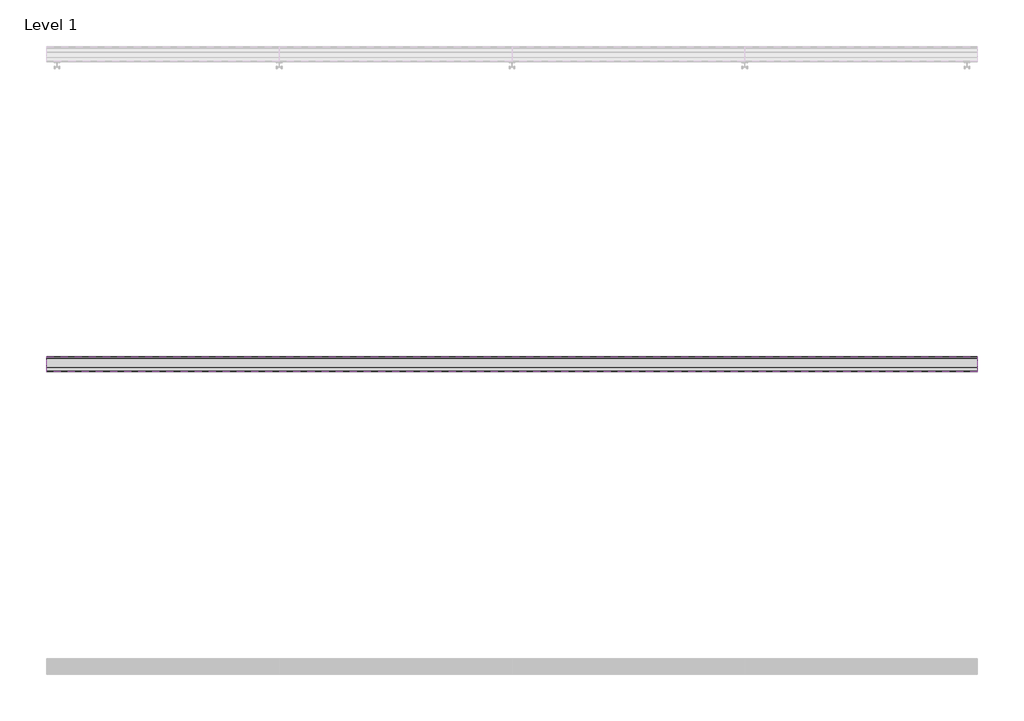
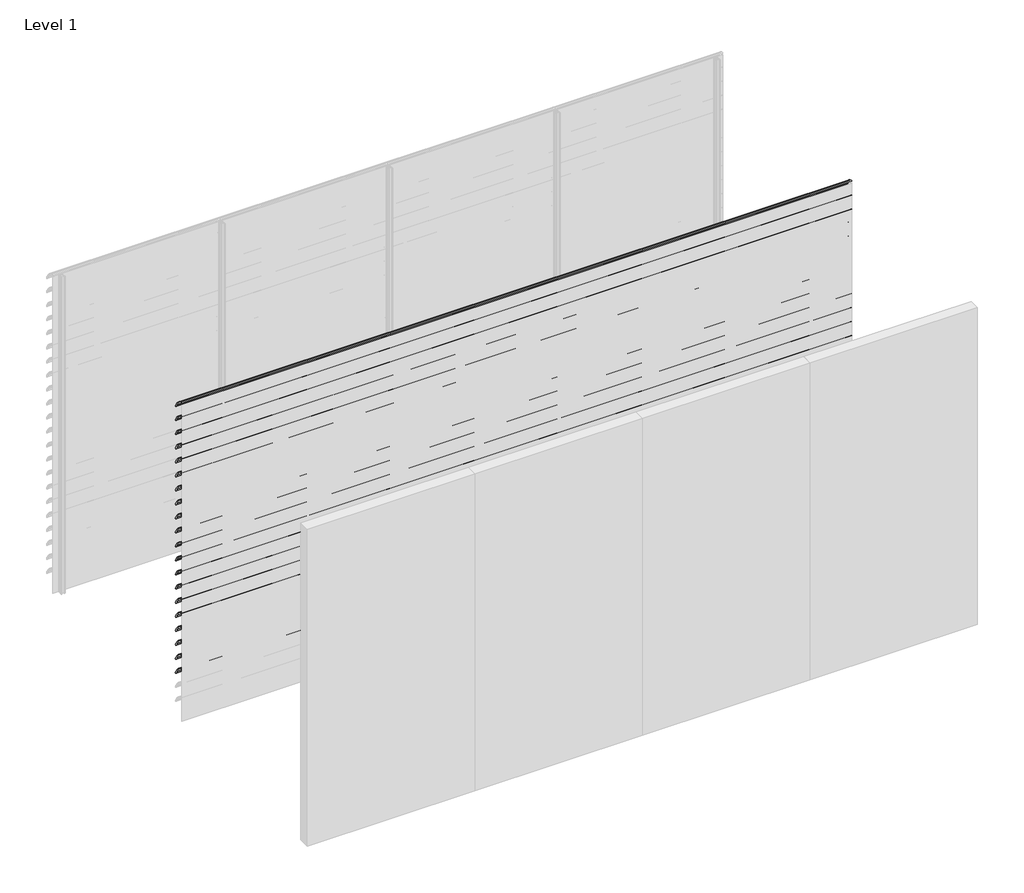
# One storey, part 14 of 57: 20 proxies.
"""IFC4 building model written with IfcOpenShell, lengths in millimetres."""

from ifc_helpers import new_model, si_unit, point, frame, frame_2d, origin, place, context, project, spatial, polyline, circle_curve, trimmed, segment, composite_curve, outline, extrude, element, save

model = new_model("IFC4")

# Units and contexts
model_context = context("Model", 3, world=origin())
ifc_project = project(units=[si_unit("LENGTHUNIT", "METRE", prefix="MILLI")], contexts=[model_context])

# Site, building, storey
site = spatial("IfcSite", under=ifc_project)
building = spatial("IfcBuilding", under=site)
storey = spatial("IfcBuildingStorey", under=building, Name="Level 1", Elevation=0.0)

# Proxies
placement = place(None, origin())
element("IfcBuildingElementProxy", 1, Name="Wall Sweeps", at=placement, inside=storey, context=model_context, shape_type="SweptSolid", body=[
    extrude(outline(composite_curve([segment(trimmed(circle_curve(frame_2d((-43993.7822526, 3016.4913792)), 4.2177474), [point((-43989.6985606, 3017.5462976))], [point((-43993.7822526, 3020.7091266))], False, "CARTESIAN"), True, "CONTINUOUS"), segment(trimmed(circle_curve(frame_2d((-44018.7150834, 2918.2536312)), 105.4456002), [point((-43993.7822526, 3020.7091266))], [point((-43971.7914298, 3012.6832099))], False, "CARTESIAN"), True, "CONTINUOUS"), segment(trimmed(circle_curve(frame_2d((-44061.7199745, 2864.0352476)), 173.7335887), [point((-43971.7914298, 3012.6832099))], [point((-43913.0720121, 2953.9637922))], False, "CARTESIAN"), True, "CONTINUOUS"), segment(trimmed(circle_curve(frame_2d((-44004.9297178, 2902.1860314)), 105.4456002), [point((-43913.0720121, 2953.9637922))], [point((-43903.6249616, 2931.4455765))], False, "CARTESIAN"), True, "CONTINUOUS"), segment(trimmed(circle_curve(frame_2d((-43907.809737, 2930.3307305)), 4.3307305), [point((-43903.6249616, 2931.4455765))], [point((-43909.0769196, 2926.189538))], False, "CARTESIAN"), True, "CONTINUOUS"), segment(polyline([(-43909.0769196, 2926.189538), (-43934.7401984, 2950.9722783)]), True, "CONTINUOUS"), segment(trimmed(circle_curve(frame_2d((-43931.3879574, 2953.2977626)), 4.079877), [point((-43934.7401984, 2950.9722783))], [point((-43930.7310597, 2957.3244091))], False, "CARTESIAN"), True, "CONTINUOUS"), segment(trimmed(circle_curve(frame_2d((-44014.6665585, 2935.2544323)), 86.7885467), [point((-43930.7310597, 2957.3244091))], [point((-43942.3028351, 2983.1683485))], True, "CARTESIAN"), True, "CONTINUOUS"), segment(polyline([(-43942.3028351, 2983.1683485), (-43940.7230099, 2985.9046861)]), True, "CONTINUOUS"), segment(trimmed(circle_curve(frame_2d((-44061.7199745, 2864.0352476)), 171.7335887), [point((-43940.7230099, 2985.9046861))], [point((-43972.7555872, 3010.9289618))], True, "CARTESIAN"), True, "CONTINUOUS"), segment(trimmed(circle_curve(frame_2d((-44018.7150834, 2918.2536312)), 103.4456002), [point((-43972.7555872, 3010.9289618))], [point((-43989.6985606, 3017.5462976))], True, "CARTESIAN"), True, "CONTINUOUS")], self_intersect=False)), frame((0.0, 0.0, 0.0), z_axis=(1.0, 0.0, 0.0), x_axis=(0.0, 1.0, 0.0)), (0.0, 0.0, 1.0), 6000.0),
])
element("IfcBuildingElementProxy", 2, Name="Wall Sweeps", at=placement, inside=storey, context=model_context, shape_type="SweptSolid", body=[
    extrude(outline(composite_curve([segment(trimmed(circle_curve(frame_2d((-43993.7822526, 2883.4913792)), 4.2177474), [point((-43989.6985606, 2884.5462976))], [point((-43993.7822526, 2887.7091266))], False, "CARTESIAN"), True, "CONTINUOUS"), segment(trimmed(circle_curve(frame_2d((-44018.7150834, 2785.2536312)), 105.4456002), [point((-43993.7822526, 2887.7091266))], [point((-43971.7914298, 2879.6832099))], False, "CARTESIAN"), True, "CONTINUOUS"), segment(trimmed(circle_curve(frame_2d((-44061.7199745, 2731.0352476)), 173.7335887), [point((-43971.7914298, 2879.6832099))], [point((-43913.0720121, 2820.9637922))], False, "CARTESIAN"), True, "CONTINUOUS"), segment(trimmed(circle_curve(frame_2d((-44004.9297178, 2769.1860314)), 105.4456002), [point((-43913.0720121, 2820.9637922))], [point((-43903.6249616, 2798.4455765))], False, "CARTESIAN"), True, "CONTINUOUS"), segment(trimmed(circle_curve(frame_2d((-43907.809737, 2797.3307305)), 4.3307305), [point((-43903.6249616, 2798.4455765))], [point((-43909.0769196, 2793.189538))], False, "CARTESIAN"), True, "CONTINUOUS"), segment(polyline([(-43909.0769196, 2793.189538), (-43934.7401984, 2817.9722783)]), True, "CONTINUOUS"), segment(trimmed(circle_curve(frame_2d((-43931.3879574, 2820.2977626)), 4.079877), [point((-43934.7401984, 2817.9722783))], [point((-43930.7310597, 2824.3244091))], False, "CARTESIAN"), True, "CONTINUOUS"), segment(trimmed(circle_curve(frame_2d((-44014.6665585, 2802.2544323)), 86.7885467), [point((-43930.7310597, 2824.3244091))], [point((-43942.3028351, 2850.1683485))], True, "CARTESIAN"), True, "CONTINUOUS"), segment(polyline([(-43942.3028351, 2850.1683485), (-43940.7230099, 2852.9046861)]), True, "CONTINUOUS"), segment(trimmed(circle_curve(frame_2d((-44061.7199745, 2731.0352476)), 171.7335887), [point((-43940.7230099, 2852.9046861))], [point((-43972.7555872, 2877.9289618))], True, "CARTESIAN"), True, "CONTINUOUS"), segment(trimmed(circle_curve(frame_2d((-44018.7150834, 2785.2536312)), 103.4456002), [point((-43972.7555872, 2877.9289618))], [point((-43989.6985606, 2884.5462976))], True, "CARTESIAN"), True, "CONTINUOUS")], self_intersect=False)), frame((0.0, 0.0, 0.0), z_axis=(1.0, 0.0, 0.0), x_axis=(0.0, 1.0, 0.0)), (0.0, 0.0, 1.0), 6000.0),
])
element("IfcBuildingElementProxy", 3, Name="Wall Sweeps", at=placement, inside=storey, context=model_context, shape_type="SweptSolid", body=[
    extrude(outline(composite_curve([segment(trimmed(circle_curve(frame_2d((-43993.7822526, 2750.4913792)), 4.2177474), [point((-43989.6985606, 2751.5462976))], [point((-43993.7822526, 2754.7091266))], False, "CARTESIAN"), True, "CONTINUOUS"), segment(trimmed(circle_curve(frame_2d((-44018.7150834, 2652.2536312)), 105.4456002), [point((-43993.7822526, 2754.7091266))], [point((-43971.7914298, 2746.6832099))], False, "CARTESIAN"), True, "CONTINUOUS"), segment(trimmed(circle_curve(frame_2d((-44061.7199745, 2598.0352476)), 173.7335887), [point((-43971.7914298, 2746.6832099))], [point((-43913.0720121, 2687.9637922))], False, "CARTESIAN"), True, "CONTINUOUS"), segment(trimmed(circle_curve(frame_2d((-44004.9297178, 2636.1860314)), 105.4456002), [point((-43913.0720121, 2687.9637922))], [point((-43903.6249616, 2665.4455765))], False, "CARTESIAN"), True, "CONTINUOUS"), segment(trimmed(circle_curve(frame_2d((-43907.809737, 2664.3307305)), 4.3307305), [point((-43903.6249616, 2665.4455765))], [point((-43909.0769196, 2660.189538))], False, "CARTESIAN"), True, "CONTINUOUS"), segment(polyline([(-43909.0769196, 2660.189538), (-43934.7401984, 2684.9722783)]), True, "CONTINUOUS"), segment(trimmed(circle_curve(frame_2d((-43931.3879574, 2687.2977626)), 4.079877), [point((-43934.7401984, 2684.9722783))], [point((-43930.7310597, 2691.3244091))], False, "CARTESIAN"), True, "CONTINUOUS"), segment(trimmed(circle_curve(frame_2d((-44014.6665585, 2669.2544323)), 86.7885467), [point((-43930.7310597, 2691.3244091))], [point((-43942.3028351, 2717.1683485))], True, "CARTESIAN"), True, "CONTINUOUS"), segment(polyline([(-43942.3028351, 2717.1683485), (-43940.7230099, 2719.9046861)]), True, "CONTINUOUS"), segment(trimmed(circle_curve(frame_2d((-44061.7199745, 2598.0352476)), 171.7335887), [point((-43940.7230099, 2719.9046861))], [point((-43972.7555872, 2744.9289618))], True, "CARTESIAN"), True, "CONTINUOUS"), segment(trimmed(circle_curve(frame_2d((-44018.7150834, 2652.2536312)), 103.4456002), [point((-43972.7555872, 2744.9289618))], [point((-43989.6985606, 2751.5462976))], True, "CARTESIAN"), True, "CONTINUOUS")], self_intersect=False)), frame((0.0, 0.0, 0.0), z_axis=(1.0, 0.0, 0.0), x_axis=(0.0, 1.0, 0.0)), (0.0, 0.0, 1.0), 6000.0),
])
element("IfcBuildingElementProxy", 4, Name="Wall Sweeps", at=placement, inside=storey, context=model_context, shape_type="SweptSolid", body=[
    extrude(outline(composite_curve([segment(trimmed(circle_curve(frame_2d((-43993.7822526, 2617.4913792)), 4.2177474), [point((-43989.6985606, 2618.5462976))], [point((-43993.7822526, 2621.7091266))], False, "CARTESIAN"), True, "CONTINUOUS"), segment(trimmed(circle_curve(frame_2d((-44018.7150834, 2519.2536312)), 105.4456002), [point((-43993.7822526, 2621.7091266))], [point((-43971.7914298, 2613.6832099))], False, "CARTESIAN"), True, "CONTINUOUS"), segment(trimmed(circle_curve(frame_2d((-44061.7199745, 2465.0352476)), 173.7335887), [point((-43971.7914298, 2613.6832099))], [point((-43913.0720121, 2554.9637922))], False, "CARTESIAN"), True, "CONTINUOUS"), segment(trimmed(circle_curve(frame_2d((-44004.9297178, 2503.1860314)), 105.4456002), [point((-43913.0720121, 2554.9637922))], [point((-43903.6249616, 2532.4455765))], False, "CARTESIAN"), True, "CONTINUOUS"), segment(trimmed(circle_curve(frame_2d((-43907.809737, 2531.3307305)), 4.3307305), [point((-43903.6249616, 2532.4455765))], [point((-43909.0769196, 2527.189538))], False, "CARTESIAN"), True, "CONTINUOUS"), segment(polyline([(-43909.0769196, 2527.189538), (-43934.7401984, 2551.9722783)]), True, "CONTINUOUS"), segment(trimmed(circle_curve(frame_2d((-43931.3879574, 2554.2977626)), 4.079877), [point((-43934.7401984, 2551.9722783))], [point((-43930.7310597, 2558.3244091))], False, "CARTESIAN"), True, "CONTINUOUS"), segment(trimmed(circle_curve(frame_2d((-44014.6665585, 2536.2544323)), 86.7885467), [point((-43930.7310597, 2558.3244091))], [point((-43942.3028351, 2584.1683485))], True, "CARTESIAN"), True, "CONTINUOUS"), segment(polyline([(-43942.3028351, 2584.1683485), (-43940.7230099, 2586.9046861)]), True, "CONTINUOUS"), segment(trimmed(circle_curve(frame_2d((-44061.7199745, 2465.0352476)), 171.7335887), [point((-43940.7230099, 2586.9046861))], [point((-43972.7555872, 2611.9289618))], True, "CARTESIAN"), True, "CONTINUOUS"), segment(trimmed(circle_curve(frame_2d((-44018.7150834, 2519.2536312)), 103.4456002), [point((-43972.7555872, 2611.9289618))], [point((-43989.6985606, 2618.5462976))], True, "CARTESIAN"), True, "CONTINUOUS")], self_intersect=False)), frame((0.0, 0.0, 0.0), z_axis=(1.0, 0.0, 0.0), x_axis=(0.0, 1.0, 0.0)), (0.0, 0.0, 1.0), 6000.0),
])
element("IfcBuildingElementProxy", 5, Name="Wall Sweeps", at=placement, inside=storey, context=model_context, shape_type="SweptSolid", body=[
    extrude(outline(composite_curve([segment(trimmed(circle_curve(frame_2d((-43993.7822526, 2484.4913792)), 4.2177474), [point((-43989.6985606, 2485.5462976))], [point((-43993.7822526, 2488.7091266))], False, "CARTESIAN"), True, "CONTINUOUS"), segment(trimmed(circle_curve(frame_2d((-44018.7150834, 2386.2536312)), 105.4456002), [point((-43993.7822526, 2488.7091266))], [point((-43971.7914298, 2480.6832099))], False, "CARTESIAN"), True, "CONTINUOUS"), segment(trimmed(circle_curve(frame_2d((-44061.7199745, 2332.0352476)), 173.7335887), [point((-43971.7914298, 2480.6832099))], [point((-43913.0720121, 2421.9637922))], False, "CARTESIAN"), True, "CONTINUOUS"), segment(trimmed(circle_curve(frame_2d((-44004.9297178, 2370.1860314)), 105.4456002), [point((-43913.0720121, 2421.9637922))], [point((-43903.6249616, 2399.4455765))], False, "CARTESIAN"), True, "CONTINUOUS"), segment(trimmed(circle_curve(frame_2d((-43907.809737, 2398.3307305)), 4.3307305), [point((-43903.6249616, 2399.4455765))], [point((-43909.0769196, 2394.189538))], False, "CARTESIAN"), True, "CONTINUOUS"), segment(polyline([(-43909.0769196, 2394.189538), (-43934.7401984, 2418.9722783)]), True, "CONTINUOUS"), segment(trimmed(circle_curve(frame_2d((-43931.3879574, 2421.2977626)), 4.079877), [point((-43934.7401984, 2418.9722783))], [point((-43930.7310597, 2425.3244091))], False, "CARTESIAN"), True, "CONTINUOUS"), segment(trimmed(circle_curve(frame_2d((-44014.6665585, 2403.2544323)), 86.7885467), [point((-43930.7310597, 2425.3244091))], [point((-43942.3028351, 2451.1683485))], True, "CARTESIAN"), True, "CONTINUOUS"), segment(polyline([(-43942.3028351, 2451.1683485), (-43940.7230099, 2453.9046861)]), True, "CONTINUOUS"), segment(trimmed(circle_curve(frame_2d((-44061.7199745, 2332.0352476)), 171.7335887), [point((-43940.7230099, 2453.9046861))], [point((-43972.7555872, 2478.9289618))], True, "CARTESIAN"), True, "CONTINUOUS"), segment(trimmed(circle_curve(frame_2d((-44018.7150834, 2386.2536312)), 103.4456002), [point((-43972.7555872, 2478.9289618))], [point((-43989.6985606, 2485.5462976))], True, "CARTESIAN"), True, "CONTINUOUS")], self_intersect=False)), frame((0.0, 0.0, 0.0), z_axis=(1.0, 0.0, 0.0), x_axis=(0.0, 1.0, 0.0)), (0.0, 0.0, 1.0), 6000.0),
])
element("IfcBuildingElementProxy", 6, Name="Wall Sweeps", at=placement, inside=storey, context=model_context, shape_type="SweptSolid", body=[
    extrude(outline(composite_curve([segment(trimmed(circle_curve(frame_2d((-43993.7822526, 2351.4913792)), 4.2177474), [point((-43989.6985606, 2352.5462976))], [point((-43993.7822526, 2355.7091266))], False, "CARTESIAN"), True, "CONTINUOUS"), segment(trimmed(circle_curve(frame_2d((-44018.7150834, 2253.2536312)), 105.4456002), [point((-43993.7822526, 2355.7091266))], [point((-43971.7914298, 2347.6832099))], False, "CARTESIAN"), True, "CONTINUOUS"), segment(trimmed(circle_curve(frame_2d((-44061.7199745, 2199.0352476)), 173.7335887), [point((-43971.7914298, 2347.6832099))], [point((-43913.0720121, 2288.9637922))], False, "CARTESIAN"), True, "CONTINUOUS"), segment(trimmed(circle_curve(frame_2d((-44004.9297178, 2237.1860314)), 105.4456002), [point((-43913.0720121, 2288.9637922))], [point((-43903.6249616, 2266.4455765))], False, "CARTESIAN"), True, "CONTINUOUS"), segment(trimmed(circle_curve(frame_2d((-43907.809737, 2265.3307305)), 4.3307305), [point((-43903.6249616, 2266.4455765))], [point((-43909.0769196, 2261.189538))], False, "CARTESIAN"), True, "CONTINUOUS"), segment(polyline([(-43909.0769196, 2261.189538), (-43934.7401984, 2285.9722783)]), True, "CONTINUOUS"), segment(trimmed(circle_curve(frame_2d((-43931.3879574, 2288.2977626)), 4.079877), [point((-43934.7401984, 2285.9722783))], [point((-43930.7310597, 2292.3244091))], False, "CARTESIAN"), True, "CONTINUOUS"), segment(trimmed(circle_curve(frame_2d((-44014.6665585, 2270.2544323)), 86.7885467), [point((-43930.7310597, 2292.3244091))], [point((-43942.3028351, 2318.1683485))], True, "CARTESIAN"), True, "CONTINUOUS"), segment(polyline([(-43942.3028351, 2318.1683485), (-43940.7230099, 2320.9046861)]), True, "CONTINUOUS"), segment(trimmed(circle_curve(frame_2d((-44061.7199745, 2199.0352476)), 171.7335887), [point((-43940.7230099, 2320.9046861))], [point((-43972.7555872, 2345.9289618))], True, "CARTESIAN"), True, "CONTINUOUS"), segment(trimmed(circle_curve(frame_2d((-44018.7150834, 2253.2536312)), 103.4456002), [point((-43972.7555872, 2345.9289618))], [point((-43989.6985606, 2352.5462976))], True, "CARTESIAN"), True, "CONTINUOUS")], self_intersect=False)), frame((0.0, 0.0, 0.0), z_axis=(1.0, 0.0, 0.0), x_axis=(0.0, 1.0, 0.0)), (0.0, 0.0, 1.0), 6000.0),
])
element("IfcBuildingElementProxy", 7, Name="Wall Sweeps", at=placement, inside=storey, context=model_context, shape_type="SweptSolid", body=[
    extrude(outline(composite_curve([segment(trimmed(circle_curve(frame_2d((-43993.7822526, 2218.4913792)), 4.2177474), [point((-43989.6985606, 2219.5462976))], [point((-43993.7822526, 2222.7091266))], False, "CARTESIAN"), True, "CONTINUOUS"), segment(trimmed(circle_curve(frame_2d((-44018.7150834, 2120.2536312)), 105.4456002), [point((-43993.7822526, 2222.7091266))], [point((-43971.7914298, 2214.6832099))], False, "CARTESIAN"), True, "CONTINUOUS"), segment(trimmed(circle_curve(frame_2d((-44061.7199745, 2066.0352476)), 173.7335887), [point((-43971.7914298, 2214.6832099))], [point((-43913.0720121, 2155.9637922))], False, "CARTESIAN"), True, "CONTINUOUS"), segment(trimmed(circle_curve(frame_2d((-44004.9297178, 2104.1860314)), 105.4456002), [point((-43913.0720121, 2155.9637922))], [point((-43903.6249616, 2133.4455765))], False, "CARTESIAN"), True, "CONTINUOUS"), segment(trimmed(circle_curve(frame_2d((-43907.809737, 2132.3307305)), 4.3307305), [point((-43903.6249616, 2133.4455765))], [point((-43909.0769196, 2128.189538))], False, "CARTESIAN"), True, "CONTINUOUS"), segment(polyline([(-43909.0769196, 2128.189538), (-43934.7401984, 2152.9722783)]), True, "CONTINUOUS"), segment(trimmed(circle_curve(frame_2d((-43931.3879574, 2155.2977626)), 4.079877), [point((-43934.7401984, 2152.9722783))], [point((-43930.7310597, 2159.3244091))], False, "CARTESIAN"), True, "CONTINUOUS"), segment(trimmed(circle_curve(frame_2d((-44014.6665585, 2137.2544323)), 86.7885467), [point((-43930.7310597, 2159.3244091))], [point((-43942.3028351, 2185.1683485))], True, "CARTESIAN"), True, "CONTINUOUS"), segment(polyline([(-43942.3028351, 2185.1683485), (-43940.7230099, 2187.9046861)]), True, "CONTINUOUS"), segment(trimmed(circle_curve(frame_2d((-44061.7199745, 2066.0352476)), 171.7335887), [point((-43940.7230099, 2187.9046861))], [point((-43972.7555872, 2212.9289618))], True, "CARTESIAN"), True, "CONTINUOUS"), segment(trimmed(circle_curve(frame_2d((-44018.7150834, 2120.2536312)), 103.4456002), [point((-43972.7555872, 2212.9289618))], [point((-43989.6985606, 2219.5462976))], True, "CARTESIAN"), True, "CONTINUOUS")], self_intersect=False)), frame((0.0, 0.0, 0.0), z_axis=(1.0, 0.0, 0.0), x_axis=(0.0, 1.0, 0.0)), (0.0, 0.0, 1.0), 6000.0),
])
element("IfcBuildingElementProxy", 8, Name="Wall Sweeps", at=placement, inside=storey, context=model_context, shape_type="SweptSolid", body=[
    extrude(outline(composite_curve([segment(trimmed(circle_curve(frame_2d((-43993.7822526, 2085.4913792)), 4.2177474), [point((-43989.6985606, 2086.5462976))], [point((-43993.7822526, 2089.7091266))], False, "CARTESIAN"), True, "CONTINUOUS"), segment(trimmed(circle_curve(frame_2d((-44018.7150834, 1987.2536312)), 105.4456002), [point((-43993.7822526, 2089.7091266))], [point((-43971.7914298, 2081.6832099))], False, "CARTESIAN"), True, "CONTINUOUS"), segment(trimmed(circle_curve(frame_2d((-44061.7199745, 1933.0352476)), 173.7335887), [point((-43971.7914298, 2081.6832099))], [point((-43913.0720121, 2022.9637922))], False, "CARTESIAN"), True, "CONTINUOUS"), segment(trimmed(circle_curve(frame_2d((-44004.9297178, 1971.1860314)), 105.4456002), [point((-43913.0720121, 2022.9637922))], [point((-43903.6249616, 2000.4455765))], False, "CARTESIAN"), True, "CONTINUOUS"), segment(trimmed(circle_curve(frame_2d((-43907.809737, 1999.3307305)), 4.3307305), [point((-43903.6249616, 2000.4455765))], [point((-43909.0769196, 1995.189538))], False, "CARTESIAN"), True, "CONTINUOUS"), segment(polyline([(-43909.0769196, 1995.189538), (-43934.7401984, 2019.9722783)]), True, "CONTINUOUS"), segment(trimmed(circle_curve(frame_2d((-43931.3879574, 2022.2977626)), 4.079877), [point((-43934.7401984, 2019.9722783))], [point((-43930.7310597, 2026.3244091))], False, "CARTESIAN"), True, "CONTINUOUS"), segment(trimmed(circle_curve(frame_2d((-44014.6665585, 2004.2544323)), 86.7885467), [point((-43930.7310597, 2026.3244091))], [point((-43942.3028351, 2052.1683485))], True, "CARTESIAN"), True, "CONTINUOUS"), segment(polyline([(-43942.3028351, 2052.1683485), (-43940.7230099, 2054.9046861)]), True, "CONTINUOUS"), segment(trimmed(circle_curve(frame_2d((-44061.7199745, 1933.0352476)), 171.7335887), [point((-43940.7230099, 2054.9046861))], [point((-43972.7555872, 2079.9289618))], True, "CARTESIAN"), True, "CONTINUOUS"), segment(trimmed(circle_curve(frame_2d((-44018.7150834, 1987.2536312)), 103.4456002), [point((-43972.7555872, 2079.9289618))], [point((-43989.6985606, 2086.5462976))], True, "CARTESIAN"), True, "CONTINUOUS")], self_intersect=False)), frame((0.0, 0.0, 0.0), z_axis=(1.0, 0.0, 0.0), x_axis=(0.0, 1.0, 0.0)), (0.0, 0.0, 1.0), 6000.0),
])
element("IfcBuildingElementProxy", 9, Name="Wall Sweeps", at=placement, inside=storey, context=model_context, shape_type="SweptSolid", body=[
    extrude(outline(composite_curve([segment(trimmed(circle_curve(frame_2d((-43993.7822526, 1952.4913792)), 4.2177474), [point((-43989.6985606, 1953.5462976))], [point((-43993.7822526, 1956.7091266))], False, "CARTESIAN"), True, "CONTINUOUS"), segment(trimmed(circle_curve(frame_2d((-44018.7150834, 1854.2536312)), 105.4456002), [point((-43993.7822526, 1956.7091266))], [point((-43971.7914298, 1948.6832099))], False, "CARTESIAN"), True, "CONTINUOUS"), segment(trimmed(circle_curve(frame_2d((-44061.7199745, 1800.0352476)), 173.7335887), [point((-43971.7914298, 1948.6832099))], [point((-43913.0720121, 1889.9637922))], False, "CARTESIAN"), True, "CONTINUOUS"), segment(trimmed(circle_curve(frame_2d((-44004.9297178, 1838.1860314)), 105.4456002), [point((-43913.0720121, 1889.9637922))], [point((-43903.6249616, 1867.4455765))], False, "CARTESIAN"), True, "CONTINUOUS"), segment(trimmed(circle_curve(frame_2d((-43907.809737, 1866.3307305)), 4.3307305), [point((-43903.6249616, 1867.4455765))], [point((-43909.0769196, 1862.189538))], False, "CARTESIAN"), True, "CONTINUOUS"), segment(polyline([(-43909.0769196, 1862.189538), (-43934.7401984, 1886.9722783)]), True, "CONTINUOUS"), segment(trimmed(circle_curve(frame_2d((-43931.3879574, 1889.2977626)), 4.079877), [point((-43934.7401984, 1886.9722783))], [point((-43930.7310597, 1893.3244091))], False, "CARTESIAN"), True, "CONTINUOUS"), segment(trimmed(circle_curve(frame_2d((-44014.6665585, 1871.2544323)), 86.7885467), [point((-43930.7310597, 1893.3244091))], [point((-43942.3028351, 1919.1683485))], True, "CARTESIAN"), True, "CONTINUOUS"), segment(polyline([(-43942.3028351, 1919.1683485), (-43940.7230099, 1921.9046861)]), True, "CONTINUOUS"), segment(trimmed(circle_curve(frame_2d((-44061.7199745, 1800.0352476)), 171.7335887), [point((-43940.7230099, 1921.9046861))], [point((-43972.7555872, 1946.9289618))], True, "CARTESIAN"), True, "CONTINUOUS"), segment(trimmed(circle_curve(frame_2d((-44018.7150834, 1854.2536312)), 103.4456002), [point((-43972.7555872, 1946.9289618))], [point((-43989.6985606, 1953.5462976))], True, "CARTESIAN"), True, "CONTINUOUS")], self_intersect=False)), frame((0.0, 0.0, 0.0), z_axis=(1.0, 0.0, 0.0), x_axis=(0.0, 1.0, 0.0)), (0.0, 0.0, 1.0), 6000.0),
])
element("IfcBuildingElementProxy", 10, Name="Wall Sweeps", at=placement, inside=storey, context=model_context, shape_type="SweptSolid", body=[
    extrude(outline(composite_curve([segment(trimmed(circle_curve(frame_2d((-43993.7822526, 1819.4913792)), 4.2177474), [point((-43989.6985606, 1820.5462976))], [point((-43993.7822526, 1823.7091266))], False, "CARTESIAN"), True, "CONTINUOUS"), segment(trimmed(circle_curve(frame_2d((-44018.7150834, 1721.2536312)), 105.4456002), [point((-43993.7822526, 1823.7091266))], [point((-43971.7914298, 1815.6832099))], False, "CARTESIAN"), True, "CONTINUOUS"), segment(trimmed(circle_curve(frame_2d((-44061.7199745, 1667.0352476)), 173.7335887), [point((-43971.7914298, 1815.6832099))], [point((-43913.0720121, 1756.9637922))], False, "CARTESIAN"), True, "CONTINUOUS"), segment(trimmed(circle_curve(frame_2d((-44004.9297178, 1705.1860314)), 105.4456002), [point((-43913.0720121, 1756.9637922))], [point((-43903.6249616, 1734.4455765))], False, "CARTESIAN"), True, "CONTINUOUS"), segment(trimmed(circle_curve(frame_2d((-43907.809737, 1733.3307305)), 4.3307305), [point((-43903.6249616, 1734.4455765))], [point((-43909.0769196, 1729.189538))], False, "CARTESIAN"), True, "CONTINUOUS"), segment(polyline([(-43909.0769196, 1729.189538), (-43934.7401984, 1753.9722783)]), True, "CONTINUOUS"), segment(trimmed(circle_curve(frame_2d((-43931.3879574, 1756.2977626)), 4.079877), [point((-43934.7401984, 1753.9722783))], [point((-43930.7310597, 1760.3244091))], False, "CARTESIAN"), True, "CONTINUOUS"), segment(trimmed(circle_curve(frame_2d((-44014.6665585, 1738.2544323)), 86.7885467), [point((-43930.7310597, 1760.3244091))], [point((-43942.3028351, 1786.1683485))], True, "CARTESIAN"), True, "CONTINUOUS"), segment(polyline([(-43942.3028351, 1786.1683485), (-43940.7230099, 1788.9046861)]), True, "CONTINUOUS"), segment(trimmed(circle_curve(frame_2d((-44061.7199745, 1667.0352476)), 171.7335887), [point((-43940.7230099, 1788.9046861))], [point((-43972.7555872, 1813.9289618))], True, "CARTESIAN"), True, "CONTINUOUS"), segment(trimmed(circle_curve(frame_2d((-44018.7150834, 1721.2536312)), 103.4456002), [point((-43972.7555872, 1813.9289618))], [point((-43989.6985606, 1820.5462976))], True, "CARTESIAN"), True, "CONTINUOUS")], self_intersect=False)), frame((0.0, 0.0, 0.0), z_axis=(1.0, 0.0, 0.0), x_axis=(0.0, 1.0, 0.0)), (0.0, 0.0, 1.0), 6000.0),
])
element("IfcBuildingElementProxy", 11, Name="Wall Sweeps", at=placement, inside=storey, context=model_context, shape_type="SweptSolid", body=[
    extrude(outline(composite_curve([segment(trimmed(circle_curve(frame_2d((-43993.7822526, 1686.4913792)), 4.2177474), [point((-43989.6985606, 1687.5462976))], [point((-43993.7822526, 1690.7091266))], False, "CARTESIAN"), True, "CONTINUOUS"), segment(trimmed(circle_curve(frame_2d((-44018.7150834, 1588.2536312)), 105.4456002), [point((-43993.7822526, 1690.7091266))], [point((-43971.7914298, 1682.6832099))], False, "CARTESIAN"), True, "CONTINUOUS"), segment(trimmed(circle_curve(frame_2d((-44061.7199745, 1534.0352476)), 173.7335887), [point((-43971.7914298, 1682.6832099))], [point((-43913.0720121, 1623.9637922))], False, "CARTESIAN"), True, "CONTINUOUS"), segment(trimmed(circle_curve(frame_2d((-44004.9297178, 1572.1860314)), 105.4456002), [point((-43913.0720121, 1623.9637922))], [point((-43903.6249616, 1601.4455765))], False, "CARTESIAN"), True, "CONTINUOUS"), segment(trimmed(circle_curve(frame_2d((-43907.809737, 1600.3307305)), 4.3307305), [point((-43903.6249616, 1601.4455765))], [point((-43909.0769196, 1596.189538))], False, "CARTESIAN"), True, "CONTINUOUS"), segment(polyline([(-43909.0769196, 1596.189538), (-43934.7401984, 1620.9722783)]), True, "CONTINUOUS"), segment(trimmed(circle_curve(frame_2d((-43931.3879574, 1623.2977626)), 4.079877), [point((-43934.7401984, 1620.9722783))], [point((-43930.7310597, 1627.3244091))], False, "CARTESIAN"), True, "CONTINUOUS"), segment(trimmed(circle_curve(frame_2d((-44014.6665585, 1605.2544323)), 86.7885467), [point((-43930.7310597, 1627.3244091))], [point((-43942.3028351, 1653.1683485))], True, "CARTESIAN"), True, "CONTINUOUS"), segment(polyline([(-43942.3028351, 1653.1683485), (-43940.7230099, 1655.9046861)]), True, "CONTINUOUS"), segment(trimmed(circle_curve(frame_2d((-44061.7199745, 1534.0352476)), 171.7335887), [point((-43940.7230099, 1655.9046861))], [point((-43972.7555872, 1680.9289618))], True, "CARTESIAN"), True, "CONTINUOUS"), segment(trimmed(circle_curve(frame_2d((-44018.7150834, 1588.2536312)), 103.4456002), [point((-43972.7555872, 1680.9289618))], [point((-43989.6985606, 1687.5462976))], True, "CARTESIAN"), True, "CONTINUOUS")], self_intersect=False)), frame((0.0, 0.0, 0.0), z_axis=(1.0, 0.0, 0.0), x_axis=(0.0, 1.0, 0.0)), (0.0, 0.0, 1.0), 6000.0),
])
element("IfcBuildingElementProxy", 12, Name="Wall Sweeps", at=placement, inside=storey, context=model_context, shape_type="SweptSolid", body=[
    extrude(outline(composite_curve([segment(trimmed(circle_curve(frame_2d((-43993.7822526, 1553.4913792)), 4.2177474), [point((-43989.6985606, 1554.5462976))], [point((-43993.7822526, 1557.7091266))], False, "CARTESIAN"), True, "CONTINUOUS"), segment(trimmed(circle_curve(frame_2d((-44018.7150834, 1455.2536312)), 105.4456002), [point((-43993.7822526, 1557.7091266))], [point((-43971.7914298, 1549.6832099))], False, "CARTESIAN"), True, "CONTINUOUS"), segment(trimmed(circle_curve(frame_2d((-44061.7199745, 1401.0352476)), 173.7335887), [point((-43971.7914298, 1549.6832099))], [point((-43913.0720121, 1490.9637922))], False, "CARTESIAN"), True, "CONTINUOUS"), segment(trimmed(circle_curve(frame_2d((-44004.9297178, 1439.1860314)), 105.4456002), [point((-43913.0720121, 1490.9637922))], [point((-43903.6249616, 1468.4455765))], False, "CARTESIAN"), True, "CONTINUOUS"), segment(trimmed(circle_curve(frame_2d((-43907.809737, 1467.3307305)), 4.3307305), [point((-43903.6249616, 1468.4455765))], [point((-43909.0769196, 1463.189538))], False, "CARTESIAN"), True, "CONTINUOUS"), segment(polyline([(-43909.0769196, 1463.189538), (-43934.7401984, 1487.9722783)]), True, "CONTINUOUS"), segment(trimmed(circle_curve(frame_2d((-43931.3879574, 1490.2977626)), 4.079877), [point((-43934.7401984, 1487.9722783))], [point((-43930.7310597, 1494.3244091))], False, "CARTESIAN"), True, "CONTINUOUS"), segment(trimmed(circle_curve(frame_2d((-44014.6665585, 1472.2544323)), 86.7885467), [point((-43930.7310597, 1494.3244091))], [point((-43942.3028351, 1520.1683485))], True, "CARTESIAN"), True, "CONTINUOUS"), segment(polyline([(-43942.3028351, 1520.1683485), (-43940.7230099, 1522.9046861)]), True, "CONTINUOUS"), segment(trimmed(circle_curve(frame_2d((-44061.7199745, 1401.0352476)), 171.7335887), [point((-43940.7230099, 1522.9046861))], [point((-43972.7555872, 1547.9289618))], True, "CARTESIAN"), True, "CONTINUOUS"), segment(trimmed(circle_curve(frame_2d((-44018.7150834, 1455.2536312)), 103.4456002), [point((-43972.7555872, 1547.9289618))], [point((-43989.6985606, 1554.5462976))], True, "CARTESIAN"), True, "CONTINUOUS")], self_intersect=False)), frame((0.0, 0.0, 0.0), z_axis=(1.0, 0.0, 0.0), x_axis=(0.0, 1.0, 0.0)), (0.0, 0.0, 1.0), 6000.0),
])
element("IfcBuildingElementProxy", 13, Name="Wall Sweeps", at=placement, inside=storey, context=model_context, shape_type="SweptSolid", body=[
    extrude(outline(composite_curve([segment(trimmed(circle_curve(frame_2d((-43993.7822526, 1420.4913792)), 4.2177474), [point((-43989.6985606, 1421.5462976))], [point((-43993.7822526, 1424.7091266))], False, "CARTESIAN"), True, "CONTINUOUS"), segment(trimmed(circle_curve(frame_2d((-44018.7150834, 1322.2536312)), 105.4456002), [point((-43993.7822526, 1424.7091266))], [point((-43971.7914298, 1416.6832099))], False, "CARTESIAN"), True, "CONTINUOUS"), segment(trimmed(circle_curve(frame_2d((-44061.7199745, 1268.0352476)), 173.7335887), [point((-43971.7914298, 1416.6832099))], [point((-43913.0720121, 1357.9637922))], False, "CARTESIAN"), True, "CONTINUOUS"), segment(trimmed(circle_curve(frame_2d((-44004.9297178, 1306.1860314)), 105.4456002), [point((-43913.0720121, 1357.9637922))], [point((-43903.6249616, 1335.4455765))], False, "CARTESIAN"), True, "CONTINUOUS"), segment(trimmed(circle_curve(frame_2d((-43907.809737, 1334.3307305)), 4.3307305), [point((-43903.6249616, 1335.4455765))], [point((-43909.0769196, 1330.189538))], False, "CARTESIAN"), True, "CONTINUOUS"), segment(polyline([(-43909.0769196, 1330.189538), (-43934.7401984, 1354.9722783)]), True, "CONTINUOUS"), segment(trimmed(circle_curve(frame_2d((-43931.3879574, 1357.2977626)), 4.079877), [point((-43934.7401984, 1354.9722783))], [point((-43930.7310597, 1361.3244091))], False, "CARTESIAN"), True, "CONTINUOUS"), segment(trimmed(circle_curve(frame_2d((-44014.6665585, 1339.2544323)), 86.7885467), [point((-43930.7310597, 1361.3244091))], [point((-43942.3028351, 1387.1683485))], True, "CARTESIAN"), True, "CONTINUOUS"), segment(polyline([(-43942.3028351, 1387.1683485), (-43940.7230099, 1389.9046861)]), True, "CONTINUOUS"), segment(trimmed(circle_curve(frame_2d((-44061.7199745, 1268.0352476)), 171.7335887), [point((-43940.7230099, 1389.9046861))], [point((-43972.7555872, 1414.9289618))], True, "CARTESIAN"), True, "CONTINUOUS"), segment(trimmed(circle_curve(frame_2d((-44018.7150834, 1322.2536312)), 103.4456002), [point((-43972.7555872, 1414.9289618))], [point((-43989.6985606, 1421.5462976))], True, "CARTESIAN"), True, "CONTINUOUS")], self_intersect=False)), frame((0.0, 0.0, 0.0), z_axis=(1.0, 0.0, 0.0), x_axis=(0.0, 1.0, 0.0)), (0.0, 0.0, 1.0), 6000.0),
])
element("IfcBuildingElementProxy", 14, Name="Wall Sweeps", at=placement, inside=storey, context=model_context, shape_type="SweptSolid", body=[
    extrude(outline(composite_curve([segment(trimmed(circle_curve(frame_2d((-43993.7822526, 1287.4913792)), 4.2177474), [point((-43989.6985606, 1288.5462976))], [point((-43993.7822526, 1291.7091266))], False, "CARTESIAN"), True, "CONTINUOUS"), segment(trimmed(circle_curve(frame_2d((-44018.7150834, 1189.2536312)), 105.4456002), [point((-43993.7822526, 1291.7091266))], [point((-43971.7914298, 1283.6832099))], False, "CARTESIAN"), True, "CONTINUOUS"), segment(trimmed(circle_curve(frame_2d((-44061.7199745, 1135.0352476)), 173.7335887), [point((-43971.7914298, 1283.6832099))], [point((-43913.0720121, 1224.9637922))], False, "CARTESIAN"), True, "CONTINUOUS"), segment(trimmed(circle_curve(frame_2d((-44004.9297178, 1173.1860314)), 105.4456002), [point((-43913.0720121, 1224.9637922))], [point((-43903.6249616, 1202.4455765))], False, "CARTESIAN"), True, "CONTINUOUS"), segment(trimmed(circle_curve(frame_2d((-43907.809737, 1201.3307305)), 4.3307305), [point((-43903.6249616, 1202.4455765))], [point((-43909.0769196, 1197.189538))], False, "CARTESIAN"), True, "CONTINUOUS"), segment(polyline([(-43909.0769196, 1197.189538), (-43934.7401984, 1221.9722783)]), True, "CONTINUOUS"), segment(trimmed(circle_curve(frame_2d((-43931.3879574, 1224.2977626)), 4.079877), [point((-43934.7401984, 1221.9722783))], [point((-43930.7310597, 1228.3244091))], False, "CARTESIAN"), True, "CONTINUOUS"), segment(trimmed(circle_curve(frame_2d((-44014.6665585, 1206.2544323)), 86.7885467), [point((-43930.7310597, 1228.3244091))], [point((-43942.3028351, 1254.1683485))], True, "CARTESIAN"), True, "CONTINUOUS"), segment(polyline([(-43942.3028351, 1254.1683485), (-43940.7230099, 1256.9046861)]), True, "CONTINUOUS"), segment(trimmed(circle_curve(frame_2d((-44061.7199745, 1135.0352476)), 171.7335887), [point((-43940.7230099, 1256.9046861))], [point((-43972.7555872, 1281.9289618))], True, "CARTESIAN"), True, "CONTINUOUS"), segment(trimmed(circle_curve(frame_2d((-44018.7150834, 1189.2536312)), 103.4456002), [point((-43972.7555872, 1281.9289618))], [point((-43989.6985606, 1288.5462976))], True, "CARTESIAN"), True, "CONTINUOUS")], self_intersect=False)), frame((0.0, 0.0, 0.0), z_axis=(1.0, 0.0, 0.0), x_axis=(0.0, 1.0, 0.0)), (0.0, 0.0, 1.0), 6000.0),
])
element("IfcBuildingElementProxy", 15, Name="Wall Sweeps", at=placement, inside=storey, context=model_context, shape_type="SweptSolid", body=[
    extrude(outline(composite_curve([segment(trimmed(circle_curve(frame_2d((-43993.7822526, 1154.4913792)), 4.2177474), [point((-43989.6985606, 1155.5462976))], [point((-43993.7822526, 1158.7091266))], False, "CARTESIAN"), True, "CONTINUOUS"), segment(trimmed(circle_curve(frame_2d((-44018.7150834, 1056.2536312)), 105.4456002), [point((-43993.7822526, 1158.7091266))], [point((-43971.7914298, 1150.6832099))], False, "CARTESIAN"), True, "CONTINUOUS"), segment(trimmed(circle_curve(frame_2d((-44061.7199745, 1002.0352476)), 173.7335887), [point((-43971.7914298, 1150.6832099))], [point((-43913.0720121, 1091.9637922))], False, "CARTESIAN"), True, "CONTINUOUS"), segment(trimmed(circle_curve(frame_2d((-44004.9297178, 1040.1860314)), 105.4456002), [point((-43913.0720121, 1091.9637922))], [point((-43903.6249616, 1069.4455765))], False, "CARTESIAN"), True, "CONTINUOUS"), segment(trimmed(circle_curve(frame_2d((-43907.809737, 1068.3307305)), 4.3307305), [point((-43903.6249616, 1069.4455765))], [point((-43909.0769196, 1064.189538))], False, "CARTESIAN"), True, "CONTINUOUS"), segment(polyline([(-43909.0769196, 1064.189538), (-43934.7401984, 1088.9722783)]), True, "CONTINUOUS"), segment(trimmed(circle_curve(frame_2d((-43931.3879574, 1091.2977626)), 4.079877), [point((-43934.7401984, 1088.9722783))], [point((-43930.7310597, 1095.3244091))], False, "CARTESIAN"), True, "CONTINUOUS"), segment(trimmed(circle_curve(frame_2d((-44014.6665585, 1073.2544323)), 86.7885467), [point((-43930.7310597, 1095.3244091))], [point((-43942.3028351, 1121.1683485))], True, "CARTESIAN"), True, "CONTINUOUS"), segment(polyline([(-43942.3028351, 1121.1683485), (-43940.7230099, 1123.9046861)]), True, "CONTINUOUS"), segment(trimmed(circle_curve(frame_2d((-44061.7199745, 1002.0352476)), 171.7335887), [point((-43940.7230099, 1123.9046861))], [point((-43972.7555872, 1148.9289618))], True, "CARTESIAN"), True, "CONTINUOUS"), segment(trimmed(circle_curve(frame_2d((-44018.7150834, 1056.2536312)), 103.4456002), [point((-43972.7555872, 1148.9289618))], [point((-43989.6985606, 1155.5462976))], True, "CARTESIAN"), True, "CONTINUOUS")], self_intersect=False)), frame((0.0, 0.0, 0.0), z_axis=(1.0, 0.0, 0.0), x_axis=(0.0, 1.0, 0.0)), (0.0, 0.0, 1.0), 6000.0),
])
element("IfcBuildingElementProxy", 16, Name="Wall Sweeps", at=placement, inside=storey, context=model_context, shape_type="SweptSolid", body=[
    extrude(outline(composite_curve([segment(trimmed(circle_curve(frame_2d((-43993.7822526, 1021.4913792)), 4.2177474), [point((-43989.6985606, 1022.5462976))], [point((-43993.7822526, 1025.7091266))], False, "CARTESIAN"), True, "CONTINUOUS"), segment(trimmed(circle_curve(frame_2d((-44018.7150834, 923.2536312)), 105.4456002), [point((-43993.7822526, 1025.7091266))], [point((-43971.7914298, 1017.6832099))], False, "CARTESIAN"), True, "CONTINUOUS"), segment(trimmed(circle_curve(frame_2d((-44061.7199745, 869.0352476)), 173.7335887), [point((-43971.7914298, 1017.6832099))], [point((-43913.0720121, 958.9637922))], False, "CARTESIAN"), True, "CONTINUOUS"), segment(trimmed(circle_curve(frame_2d((-44004.9297178, 907.1860314)), 105.4456002), [point((-43913.0720121, 958.9637922))], [point((-43903.6249616, 936.4455765))], False, "CARTESIAN"), True, "CONTINUOUS"), segment(trimmed(circle_curve(frame_2d((-43907.809737, 935.3307305)), 4.3307305), [point((-43903.6249616, 936.4455765))], [point((-43909.0769196, 931.189538))], False, "CARTESIAN"), True, "CONTINUOUS"), segment(polyline([(-43909.0769196, 931.189538), (-43934.7401984, 955.9722783)]), True, "CONTINUOUS"), segment(trimmed(circle_curve(frame_2d((-43931.3879574, 958.2977626)), 4.079877), [point((-43934.7401984, 955.9722783))], [point((-43930.7310597, 962.3244091))], False, "CARTESIAN"), True, "CONTINUOUS"), segment(trimmed(circle_curve(frame_2d((-44014.6665585, 940.2544323)), 86.7885467), [point((-43930.7310597, 962.3244091))], [point((-43942.3028351, 988.1683485))], True, "CARTESIAN"), True, "CONTINUOUS"), segment(polyline([(-43942.3028351, 988.1683485), (-43940.7230099, 990.9046861)]), True, "CONTINUOUS"), segment(trimmed(circle_curve(frame_2d((-44061.7199745, 869.0352476)), 171.7335887), [point((-43940.7230099, 990.9046861))], [point((-43972.7555872, 1015.9289618))], True, "CARTESIAN"), True, "CONTINUOUS"), segment(trimmed(circle_curve(frame_2d((-44018.7150834, 923.2536312)), 103.4456002), [point((-43972.7555872, 1015.9289618))], [point((-43989.6985606, 1022.5462976))], True, "CARTESIAN"), True, "CONTINUOUS")], self_intersect=False)), frame((0.0, 0.0, 0.0), z_axis=(1.0, 0.0, 0.0), x_axis=(0.0, 1.0, 0.0)), (0.0, 0.0, 1.0), 6000.0),
])
element("IfcBuildingElementProxy", 17, Name="Wall Sweeps", at=placement, inside=storey, context=model_context, shape_type="SweptSolid", body=[
    extrude(outline(composite_curve([segment(trimmed(circle_curve(frame_2d((-43993.7822526, 888.4913792)), 4.2177474), [point((-43989.6985606, 889.5462976))], [point((-43993.7822526, 892.7091266))], False, "CARTESIAN"), True, "CONTINUOUS"), segment(trimmed(circle_curve(frame_2d((-44018.7150834, 790.2536312)), 105.4456002), [point((-43993.7822526, 892.7091266))], [point((-43971.7914298, 884.6832099))], False, "CARTESIAN"), True, "CONTINUOUS"), segment(trimmed(circle_curve(frame_2d((-44061.7199745, 736.0352476)), 173.7335887), [point((-43971.7914298, 884.6832099))], [point((-43913.0720121, 825.9637922))], False, "CARTESIAN"), True, "CONTINUOUS"), segment(trimmed(circle_curve(frame_2d((-44004.9297178, 774.1860314)), 105.4456002), [point((-43913.0720121, 825.9637922))], [point((-43903.6249616, 803.4455765))], False, "CARTESIAN"), True, "CONTINUOUS"), segment(trimmed(circle_curve(frame_2d((-43907.809737, 802.3307305)), 4.3307305), [point((-43903.6249616, 803.4455765))], [point((-43909.0769196, 798.189538))], False, "CARTESIAN"), True, "CONTINUOUS"), segment(polyline([(-43909.0769196, 798.189538), (-43934.7401984, 822.9722783)]), True, "CONTINUOUS"), segment(trimmed(circle_curve(frame_2d((-43931.3879574, 825.2977626)), 4.079877), [point((-43934.7401984, 822.9722783))], [point((-43930.7310597, 829.3244091))], False, "CARTESIAN"), True, "CONTINUOUS"), segment(trimmed(circle_curve(frame_2d((-44014.6665585, 807.2544323)), 86.7885467), [point((-43930.7310597, 829.3244091))], [point((-43942.3028351, 855.1683485))], True, "CARTESIAN"), True, "CONTINUOUS"), segment(polyline([(-43942.3028351, 855.1683485), (-43940.7230099, 857.9046861)]), True, "CONTINUOUS"), segment(trimmed(circle_curve(frame_2d((-44061.7199745, 736.0352476)), 171.7335887), [point((-43940.7230099, 857.9046861))], [point((-43972.7555872, 882.9289618))], True, "CARTESIAN"), True, "CONTINUOUS"), segment(trimmed(circle_curve(frame_2d((-44018.7150834, 790.2536312)), 103.4456002), [point((-43972.7555872, 882.9289618))], [point((-43989.6985606, 889.5462976))], True, "CARTESIAN"), True, "CONTINUOUS")], self_intersect=False)), frame((0.0, 0.0, 0.0), z_axis=(1.0, 0.0, 0.0), x_axis=(0.0, 1.0, 0.0)), (0.0, 0.0, 1.0), 6000.0),
])
element("IfcBuildingElementProxy", 18, Name="Wall Sweeps", at=placement, inside=storey, context=model_context, shape_type="SweptSolid", body=[
    extrude(outline(composite_curve([segment(trimmed(circle_curve(frame_2d((-43993.7822526, 755.4913792)), 4.2177474), [point((-43989.6985606, 756.5462976))], [point((-43993.7822526, 759.7091266))], False, "CARTESIAN"), True, "CONTINUOUS"), segment(trimmed(circle_curve(frame_2d((-44018.7150834, 657.2536312)), 105.4456002), [point((-43993.7822526, 759.7091266))], [point((-43971.7914298, 751.6832099))], False, "CARTESIAN"), True, "CONTINUOUS"), segment(trimmed(circle_curve(frame_2d((-44061.7199745, 603.0352476)), 173.7335887), [point((-43971.7914298, 751.6832099))], [point((-43913.0720121, 692.9637922))], False, "CARTESIAN"), True, "CONTINUOUS"), segment(trimmed(circle_curve(frame_2d((-44004.9297178, 641.1860314)), 105.4456002), [point((-43913.0720121, 692.9637922))], [point((-43903.6249616, 670.4455765))], False, "CARTESIAN"), True, "CONTINUOUS"), segment(trimmed(circle_curve(frame_2d((-43907.809737, 669.3307305)), 4.3307305), [point((-43903.6249616, 670.4455765))], [point((-43909.0769196, 665.189538))], False, "CARTESIAN"), True, "CONTINUOUS"), segment(polyline([(-43909.0769196, 665.189538), (-43934.7401984, 689.9722783)]), True, "CONTINUOUS"), segment(trimmed(circle_curve(frame_2d((-43931.3879574, 692.2977626)), 4.079877), [point((-43934.7401984, 689.9722783))], [point((-43930.7310597, 696.3244091))], False, "CARTESIAN"), True, "CONTINUOUS"), segment(trimmed(circle_curve(frame_2d((-44014.6665585, 674.2544323)), 86.7885467), [point((-43930.7310597, 696.3244091))], [point((-43942.3028351, 722.1683485))], True, "CARTESIAN"), True, "CONTINUOUS"), segment(polyline([(-43942.3028351, 722.1683485), (-43940.7230099, 724.9046861)]), True, "CONTINUOUS"), segment(trimmed(circle_curve(frame_2d((-44061.7199745, 603.0352476)), 171.7335887), [point((-43940.7230099, 724.9046861))], [point((-43972.7555872, 749.9289618))], True, "CARTESIAN"), True, "CONTINUOUS"), segment(trimmed(circle_curve(frame_2d((-44018.7150834, 657.2536312)), 103.4456002), [point((-43972.7555872, 749.9289618))], [point((-43989.6985606, 756.5462976))], True, "CARTESIAN"), True, "CONTINUOUS")], self_intersect=False)), frame((0.0, 0.0, 0.0), z_axis=(1.0, 0.0, 0.0), x_axis=(0.0, 1.0, 0.0)), (0.0, 0.0, 1.0), 6000.0),
])
element("IfcBuildingElementProxy", 19, Name="Wall Sweeps", at=placement, inside=storey, context=model_context, shape_type="SweptSolid", body=[
    extrude(outline(composite_curve([segment(trimmed(circle_curve(frame_2d((-43993.7822526, 622.4913792)), 4.2177474), [point((-43989.6985606, 623.5462976))], [point((-43993.7822526, 626.7091266))], False, "CARTESIAN"), True, "CONTINUOUS"), segment(trimmed(circle_curve(frame_2d((-44018.7150834, 524.2536312)), 105.4456002), [point((-43993.7822526, 626.7091266))], [point((-43971.7914298, 618.6832099))], False, "CARTESIAN"), True, "CONTINUOUS"), segment(trimmed(circle_curve(frame_2d((-44061.7199745, 470.0352476)), 173.7335887), [point((-43971.7914298, 618.6832099))], [point((-43913.0720121, 559.9637922))], False, "CARTESIAN"), True, "CONTINUOUS"), segment(trimmed(circle_curve(frame_2d((-44004.9297178, 508.1860314)), 105.4456002), [point((-43913.0720121, 559.9637922))], [point((-43903.6249616, 537.4455765))], False, "CARTESIAN"), True, "CONTINUOUS"), segment(trimmed(circle_curve(frame_2d((-43907.809737, 536.3307305)), 4.3307305), [point((-43903.6249616, 537.4455765))], [point((-43909.0769196, 532.189538))], False, "CARTESIAN"), True, "CONTINUOUS"), segment(polyline([(-43909.0769196, 532.189538), (-43934.7401984, 556.9722783)]), True, "CONTINUOUS"), segment(trimmed(circle_curve(frame_2d((-43931.3879574, 559.2977626)), 4.079877), [point((-43934.7401984, 556.9722783))], [point((-43930.7310597, 563.3244091))], False, "CARTESIAN"), True, "CONTINUOUS"), segment(trimmed(circle_curve(frame_2d((-44014.6665585, 541.2544323)), 86.7885467), [point((-43930.7310597, 563.3244091))], [point((-43942.3028351, 589.1683485))], True, "CARTESIAN"), True, "CONTINUOUS"), segment(polyline([(-43942.3028351, 589.1683485), (-43940.7230099, 591.9046861)]), True, "CONTINUOUS"), segment(trimmed(circle_curve(frame_2d((-44061.7199745, 470.0352476)), 171.7335887), [point((-43940.7230099, 591.9046861))], [point((-43972.7555872, 616.9289618))], True, "CARTESIAN"), True, "CONTINUOUS"), segment(trimmed(circle_curve(frame_2d((-44018.7150834, 524.2536312)), 103.4456002), [point((-43972.7555872, 616.9289618))], [point((-43989.6985606, 623.5462976))], True, "CARTESIAN"), True, "CONTINUOUS")], self_intersect=False)), frame((0.0, 0.0, 0.0), z_axis=(1.0, 0.0, 0.0), x_axis=(0.0, 1.0, 0.0)), (0.0, 0.0, 1.0), 6000.0),
])
element("IfcBuildingElementProxy", 20, Name="Wall Sweeps", at=placement, inside=storey, context=model_context, shape_type="SweptSolid", body=[
    extrude(outline(composite_curve([segment(trimmed(circle_curve(frame_2d((-43993.7822526, 489.4913792)), 4.2177474), [point((-43989.6985606, 490.5462976))], [point((-43993.7822526, 493.7091266))], False, "CARTESIAN"), True, "CONTINUOUS"), segment(trimmed(circle_curve(frame_2d((-44018.7150834, 391.2536312)), 105.4456002), [point((-43993.7822526, 493.7091266))], [point((-43971.7914298, 485.6832099))], False, "CARTESIAN"), True, "CONTINUOUS"), segment(trimmed(circle_curve(frame_2d((-44061.7199745, 337.0352476)), 173.7335887), [point((-43971.7914298, 485.6832099))], [point((-43913.0720121, 426.9637922))], False, "CARTESIAN"), True, "CONTINUOUS"), segment(trimmed(circle_curve(frame_2d((-44004.9297178, 375.1860314)), 105.4456002), [point((-43913.0720121, 426.9637922))], [point((-43903.6249616, 404.4455765))], False, "CARTESIAN"), True, "CONTINUOUS"), segment(trimmed(circle_curve(frame_2d((-43907.809737, 403.3307305)), 4.3307305), [point((-43903.6249616, 404.4455765))], [point((-43909.0769196, 399.189538))], False, "CARTESIAN"), True, "CONTINUOUS"), segment(polyline([(-43909.0769196, 399.189538), (-43934.7401984, 423.9722783)]), True, "CONTINUOUS"), segment(trimmed(circle_curve(frame_2d((-43931.3879574, 426.2977626)), 4.079877), [point((-43934.7401984, 423.9722783))], [point((-43930.7310597, 430.3244091))], False, "CARTESIAN"), True, "CONTINUOUS"), segment(trimmed(circle_curve(frame_2d((-44014.6665585, 408.2544323)), 86.7885467), [point((-43930.7310597, 430.3244091))], [point((-43942.3028351, 456.1683485))], True, "CARTESIAN"), True, "CONTINUOUS"), segment(polyline([(-43942.3028351, 456.1683485), (-43940.7230099, 458.9046861)]), True, "CONTINUOUS"), segment(trimmed(circle_curve(frame_2d((-44061.7199745, 337.0352476)), 171.7335887), [point((-43940.7230099, 458.9046861))], [point((-43972.7555872, 483.9289618))], True, "CARTESIAN"), True, "CONTINUOUS"), segment(trimmed(circle_curve(frame_2d((-44018.7150834, 391.2536312)), 103.4456002), [point((-43972.7555872, 483.9289618))], [point((-43989.6985606, 490.5462976))], True, "CARTESIAN"), True, "CONTINUOUS")], self_intersect=False)), frame((0.0, 0.0, 0.0), z_axis=(1.0, 0.0, 0.0), x_axis=(0.0, 1.0, 0.0)), (0.0, 0.0, 1.0), 6000.0),
])

save(model, "model.ifc")
